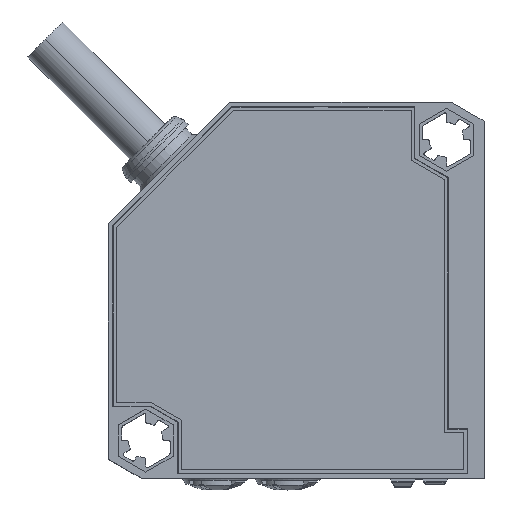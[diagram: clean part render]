
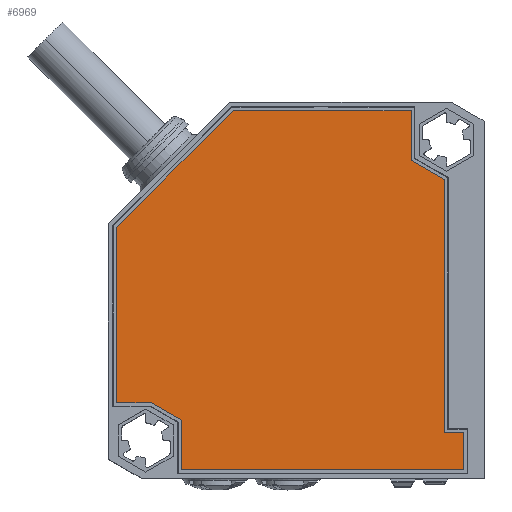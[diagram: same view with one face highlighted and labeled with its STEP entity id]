
A CAD part, top view. The second image highlights one B-rep face of the part: STEP entity #6969.
In plain terms, the highlighted planar face has unit normal (0, 0, 1).
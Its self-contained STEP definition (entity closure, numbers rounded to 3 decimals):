
#159 = LINE ( 'NONE', #9013, #3502 ) ;
#198 = EDGE_CURVE ( 'NONE', #6582, #2412, #2513, .T. ) ;
#214 = CARTESIAN_POINT ( 'NONE',  ( -221023.94, -15.01, 18. ) ) ;
#239 = CARTESIAN_POINT ( 'NONE',  ( -221023.94, 8.384, 18. ) ) ;
#241 = ORIENTED_EDGE ( 'NONE', *, *, #10838, .F. ) ;
#598 = ORIENTED_EDGE ( 'NONE', *, *, #198, .F. ) ;
#632 = ORIENTED_EDGE ( 'NONE', *, *, #3157, .F. ) ;
#963 = CARTESIAN_POINT ( 'NONE',  ( -220999.99, -15.01, 18. ) ) ;
#988 = VECTOR ( 'NONE', #6091, 1000. ) ;
#1113 = FACE_OUTER_BOUND ( 'NONE', #6045, .T. ) ;
#1183 = EDGE_CURVE ( 'NONE', #7805, #7518, #6364, .T. ) ;
#1232 = CARTESIAN_POINT ( 'NONE',  ( -220999.99, -0.01, 18. ) ) ;
#1410 = ORIENTED_EDGE ( 'NONE', *, *, #3433, .F. ) ;
#1466 = CARTESIAN_POINT ( 'NONE',  ( -221015.303, -23.96, 18. ) ) ;
#1503 = LINE ( 'NONE', #2438, #6431 ) ;
#1589 = VECTOR ( 'NONE', #6301, 1000. ) ;
#1673 = ORIENTED_EDGE ( 'NONE', *, *, #1183, .F. ) ;
#1703 = EDGE_CURVE ( 'NONE', #4923, #9638, #7205, .T. ) ;
#1846 = CARTESIAN_POINT ( 'NONE',  ( -221023.94, -0.01, 18. ) ) ;
#1934 = EDGE_CURVE ( 'NONE', #8664, #9182, #2235, .T. ) ;
#2166 = DIRECTION ( 'NONE',  ( -1., 0., 0. ) ) ;
#2235 = LINE ( 'NONE', #2347, #11259 ) ;
#2347 = CARTESIAN_POINT ( 'NONE',  ( -220984.677, 17.305, 18. ) ) ;
#2395 = ORIENTED_EDGE ( 'NONE', *, *, #1934, .F. ) ;
#2405 = DIRECTION ( 'NONE',  ( 0., -1., 0. ) ) ;
#2412 = VERTEX_POINT ( 'NONE', #1466 ) ;
#2438 = CARTESIAN_POINT ( 'NONE',  ( -220984.677, -0.01, 18. ) ) ;
#2439 = LINE ( 'NONE', #1846, #1589 ) ;
#2513 = LINE ( 'NONE', #5384, #988 ) ;
#2544 = VECTOR ( 'NONE', #7340, 1000. ) ;
#2606 = ORIENTED_EDGE ( 'NONE', *, *, #3694, .F. ) ;
#2770 = CARTESIAN_POINT ( 'NONE',  ( -221015.303, -17.325, 18. ) ) ;
#2848 = DIRECTION ( 'NONE',  ( 0., 0., -1. ) ) ;
#3002 = EDGE_CURVE ( 'NONE', #10816, #6991, #2439, .T. ) ;
#3045 = VECTOR ( 'NONE', #3356, 1000. ) ;
#3100 = CARTESIAN_POINT ( 'NONE',  ( -220977.64, -0.01, 18. ) ) ;
#3157 = EDGE_CURVE ( 'NONE', #10984, #10816, #8964, .T. ) ;
#3159 = LINE ( 'NONE', #3100, #10178 ) ;
#3216 = CARTESIAN_POINT ( 'NONE',  ( -220984.677, 23.94, 18. ) ) ;
#3356 = DIRECTION ( 'NONE',  ( 1., 0., 0. ) ) ;
#3433 = EDGE_CURVE ( 'NONE', #2412, #4955, #6104, .T. ) ;
#3502 = VECTOR ( 'NONE', #6463, 1000. ) ;
#3694 = EDGE_CURVE ( 'NONE', #9638, #6582, #3159, .T. ) ;
#3787 = PLANE ( 'NONE',  #7014 ) ;
#3790 = ORIENTED_EDGE ( 'NONE', *, *, #5969, .F. ) ;
#4199 = VECTOR ( 'NONE', #8102, 1000. ) ;
#4301 = CARTESIAN_POINT ( 'NONE',  ( -220980.24, 14.743, 18. ) ) ;
#4383 = DIRECTION ( 'NONE',  ( 0., 1., 0. ) ) ;
#4549 = LINE ( 'NONE', #10803, #7389 ) ;
#4605 = DIRECTION ( 'NONE',  ( 1., 0., 0. ) ) ;
#4923 = VERTEX_POINT ( 'NONE', #8961 ) ;
#4955 = VERTEX_POINT ( 'NONE', #2770 ) ;
#4996 = ORIENTED_EDGE ( 'NONE', *, *, #3002, .F. ) ;
#5270 = DIRECTION ( 'NONE',  ( 0., -1., 0. ) ) ;
#5384 = CARTESIAN_POINT ( 'NONE',  ( -220999.99, -23.96, 18. ) ) ;
#5906 = VECTOR ( 'NONE', #4383, 1000. ) ;
#5969 = EDGE_CURVE ( 'NONE', #7518, #8664, #1503, .T. ) ;
#6045 = EDGE_LOOP ( 'NONE', ( #3790, #1673, #7335, #4996, #632, #241, #1410, #598, #2606, #7756, #10202, #2395 ) ) ;
#6091 = DIRECTION ( 'NONE',  ( -1., 0., 0. ) ) ;
#6104 = LINE ( 'NONE', #8823, #5906 ) ;
#6301 = DIRECTION ( 'NONE',  ( 0., 1., 0. ) ) ;
#6364 = LINE ( 'NONE', #9038, #10896 ) ;
#6431 = VECTOR ( 'NONE', #11310, 1000. ) ;
#6463 = DIRECTION ( 'NONE',  ( -0.866, 0.5, 0. ) ) ;
#6533 = CARTESIAN_POINT ( 'NONE',  ( -221008.384, 23.94, 18. ) ) ;
#6582 = VERTEX_POINT ( 'NONE', #10933 ) ;
#6640 = CARTESIAN_POINT ( 'NONE',  ( -221019.312, -15.01, 18. ) ) ;
#6849 = EDGE_CURVE ( 'NONE', #9182, #4923, #4549, .T. ) ;
#6969 = ADVANCED_FACE ( 'NONE', ( #1113 ), #3787, .F. ) ;
#6991 = VERTEX_POINT ( 'NONE', #239 ) ;
#7014 = AXIS2_PLACEMENT_3D ( 'NONE', #1232, #2848, #2166 ) ;
#7205 = LINE ( 'NONE', #10383, #3045 ) ;
#7335 = ORIENTED_EDGE ( 'NONE', *, *, #7673, .F. ) ;
#7340 = DIRECTION ( 'NONE',  ( 0.707, 0.707, 0. ) ) ;
#7389 = VECTOR ( 'NONE', #5270, 1000. ) ;
#7447 = CARTESIAN_POINT ( 'NONE',  ( -220984.677, 17.305, 18. ) ) ;
#7518 = VERTEX_POINT ( 'NONE', #3216 ) ;
#7673 = EDGE_CURVE ( 'NONE', #6991, #7805, #8874, .T. ) ;
#7756 = ORIENTED_EDGE ( 'NONE', *, *, #1703, .F. ) ;
#7805 = VERTEX_POINT ( 'NONE', #6533 ) ;
#8102 = DIRECTION ( 'NONE',  ( -1., 0., 0. ) ) ;
#8225 = CARTESIAN_POINT ( 'NONE',  ( -221023.94, 8.384, 18. ) ) ;
#8664 = VERTEX_POINT ( 'NONE', #7447 ) ;
#8823 = CARTESIAN_POINT ( 'NONE',  ( -221015.303, -0.01, 18. ) ) ;
#8874 = LINE ( 'NONE', #8225, #2544 ) ;
#8961 = CARTESIAN_POINT ( 'NONE',  ( -220980.24, -19.014, 18. ) ) ;
#8964 = LINE ( 'NONE', #963, #4199 ) ;
#9013 = CARTESIAN_POINT ( 'NONE',  ( -221015.303, -17.325, 18. ) ) ;
#9038 = CARTESIAN_POINT ( 'NONE',  ( -220999.99, 23.94, 18. ) ) ;
#9182 = VERTEX_POINT ( 'NONE', #4301 ) ;
#9638 = VERTEX_POINT ( 'NONE', #10702 ) ;
#10178 = VECTOR ( 'NONE', #2405, 1000. ) ;
#10202 = ORIENTED_EDGE ( 'NONE', *, *, #6849, .F. ) ;
#10383 = CARTESIAN_POINT ( 'NONE',  ( -220999.99, -19.014, 18. ) ) ;
#10461 = DIRECTION ( 'NONE',  ( 0.866, -0.5, 0. ) ) ;
#10702 = CARTESIAN_POINT ( 'NONE',  ( -220977.64, -19.014, 18. ) ) ;
#10803 = CARTESIAN_POINT ( 'NONE',  ( -220980.24, -0.01, 18. ) ) ;
#10816 = VERTEX_POINT ( 'NONE', #214 ) ;
#10838 = EDGE_CURVE ( 'NONE', #4955, #10984, #159, .T. ) ;
#10896 = VECTOR ( 'NONE', #4605, 1000. ) ;
#10933 = CARTESIAN_POINT ( 'NONE',  ( -220977.64, -23.96, 18. ) ) ;
#10984 = VERTEX_POINT ( 'NONE', #6640 ) ;
#11259 = VECTOR ( 'NONE', #10461, 1000. ) ;
#11310 = DIRECTION ( 'NONE',  ( 0., -1., 0. ) ) ;
